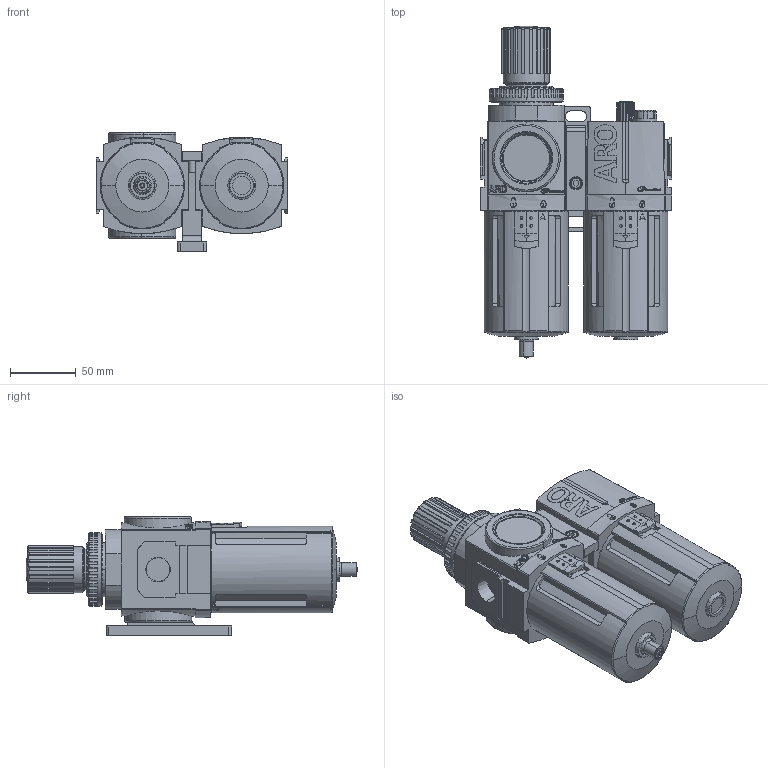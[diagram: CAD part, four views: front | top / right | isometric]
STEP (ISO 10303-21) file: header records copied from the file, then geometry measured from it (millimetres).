
FILE_DESCRIPTION(/* description */ (''),/* implementation_level */ '2;1');
FILE_NAME(/* name */ 'C383X1-60X_01',/* time_stamp */ '2009-02-06T13:48:53-05:00',/* author */ (''),/* organization */ (''),/* preprocessor_version */ 'ST-DEVELOPER v9',/* originating_system */ 'UGS - NX 4.0',/* authorisation */ '');
FILE_SCHEMA (('AUTOMOTIVE_DESIGN { 1 0 10303 214 1 1 1 1 }'));
Length unit declared in the file: inch
Products named in the file (1): szeeA340nhpa
Bounding box: 145.4 x 251.78 x 89.8 mm (x, y, z)
Volume: 1283828.4 mm3; surface area: 211222.3 mm2
Topology: 4 solids, 4 shells, 2815 faces, 7362 edges, 4780 vertices
Faces by surface type: plane 1730, cylinder 619, cone 132, extrusion 132, bspline 100, torus 66, sphere 36
Full cylindrical faces by diameter (mm): 3.3 x1
Entity records: 121953 total; most frequent: CARTESIAN_POINT 34905, ORIENTED_EDGE 14652, DIRECTION 12816, EDGE_CURVE 7326, VERTEX_POINT 4773, VECTOR 4524, LINE 4392, AXIS2_PLACEMENT_3D 4146
